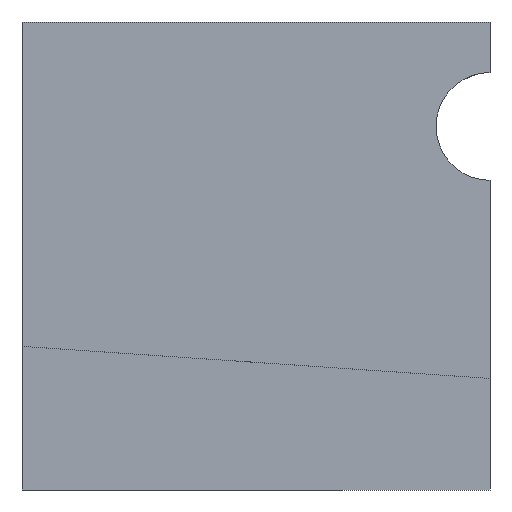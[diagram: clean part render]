
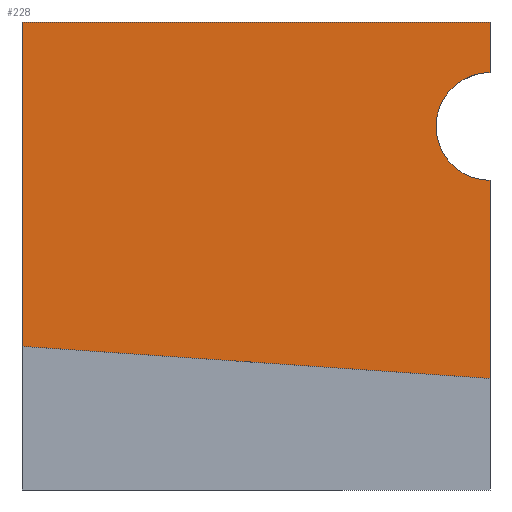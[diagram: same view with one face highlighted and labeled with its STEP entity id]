
A CAD part, left-side view. The second image highlights one B-rep face of the part: STEP entity #228.
In plain terms, the highlighted planar face has unit normal (-1, 0, 0).
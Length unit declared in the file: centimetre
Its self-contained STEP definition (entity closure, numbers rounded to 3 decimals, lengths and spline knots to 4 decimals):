
#7 = VERTEX_POINT ( 'NONE', #178 ) ;
#14 = DIRECTION ( 'NONE',  ( 0., -1., 0. ) ) ;
#31 = LINE ( 'NONE', #879, #623 ) ;
#44 = ORIENTED_EDGE ( 'NONE', *, *, #898, .F. ) ;
#53 = PLANE ( 'NONE',  #149 ) ;
#55 = EDGE_CURVE ( 'NONE', #841, #7, #422, .T. ) ;
#67 = CARTESIAN_POINT ( 'NONE',  ( 0., 0., 776.9443 ) ) ;
#80 = CARTESIAN_POINT ( 'NONE',  ( 0., 0., 238.3951 ) ) ;
#85 = CARTESIAN_POINT ( 'NONE',  ( 0., 1000., 306.9374 ) ) ;
#88 = DIRECTION ( 'NONE',  ( 0., 0., -1. ) ) ;
#94 = CARTESIAN_POINT ( 'NONE',  ( 0., 0., 1000. ) ) ;
#97 = EDGE_CURVE ( 'NONE', #272, #841, #31, .T. ) ;
#120 = ORIENTED_EDGE ( 'NONE', *, *, #293, .T. ) ;
#143 = DIRECTION ( 'NONE',  ( 0., 0., -1. ) ) ;
#149 = AXIS2_PLACEMENT_3D ( 'NONE', #288, #616, #143 ) ;
#178 = CARTESIAN_POINT ( 'NONE',  ( 0., 0., 892.1543 ) ) ;
#198 = VERTEX_POINT ( 'NONE', #443 ) ;
#226 = LINE ( 'NONE', #927, #739 ) ;
#228 = ADVANCED_FACE ( 'NONE', ( #525 ), #53, .F. ) ;
#262 = ORIENTED_EDGE ( 'NONE', *, *, #97, .F. ) ;
#272 = VERTEX_POINT ( 'NONE', #982 ) ;
#288 = CARTESIAN_POINT ( 'NONE',  ( 0., 1000., 1000. ) ) ;
#293 = EDGE_CURVE ( 'NONE', #272, #583, #988, .T. ) ;
#316 = CARTESIAN_POINT ( 'NONE',  ( 0., 1000., 1000. ) ) ;
#323 = AXIS2_PLACEMENT_3D ( 'NONE', #67, #601, #702 ) ;
#361 = VERTEX_POINT ( 'NONE', #80 ) ;
#377 = DIRECTION ( 'NONE',  ( 0., 0.998, 0.068 ) ) ;
#380 = ORIENTED_EDGE ( 'NONE', *, *, #55, .F. ) ;
#383 = EDGE_LOOP ( 'NONE', ( #120, #44, #957, #593, #380, #262 ) ) ;
#420 = VECTOR ( 'NONE', #88, 100. ) ;
#422 = LINE ( 'NONE', #94, #768 ) ;
#427 = EDGE_CURVE ( 'NONE', #7, #198, #942, .T. ) ;
#443 = CARTESIAN_POINT ( 'NONE',  ( 0., 0., 661.7342 ) ) ;
#462 = LINE ( 'NONE', #778, #576 ) ;
#525 = FACE_OUTER_BOUND ( 'NONE', #383, .T. ) ;
#576 = VECTOR ( 'NONE', #1008, 100. ) ;
#583 = VERTEX_POINT ( 'NONE', #85 ) ;
#593 = ORIENTED_EDGE ( 'NONE', *, *, #427, .F. ) ;
#601 = DIRECTION ( 'NONE',  ( -1., 0., 0. ) ) ;
#616 = DIRECTION ( 'NONE',  ( 1., 0., 0. ) ) ;
#623 = VECTOR ( 'NONE', #14, 100. ) ;
#702 = DIRECTION ( 'NONE',  ( 0., 0., 1. ) ) ;
#739 = VECTOR ( 'NONE', #377, 100. ) ;
#768 = VECTOR ( 'NONE', #818, 100. ) ;
#778 = CARTESIAN_POINT ( 'NONE',  ( 0., 0., 1000. ) ) ;
#818 = DIRECTION ( 'NONE',  ( 0., 0., -1. ) ) ;
#833 = CARTESIAN_POINT ( 'NONE',  ( 0., 0., 1000. ) ) ;
#841 = VERTEX_POINT ( 'NONE', #833 ) ;
#879 = CARTESIAN_POINT ( 'NONE',  ( 0., 1000., 1000. ) ) ;
#898 = EDGE_CURVE ( 'NONE', #361, #583, #226, .T. ) ;
#927 = CARTESIAN_POINT ( 'NONE',  ( 0., 1000., 306.9374 ) ) ;
#942 = CIRCLE ( 'NONE', #323, 115.2101 ) ;
#943 = EDGE_CURVE ( 'NONE', #198, #361, #462, .T. ) ;
#957 = ORIENTED_EDGE ( 'NONE', *, *, #943, .F. ) ;
#982 = CARTESIAN_POINT ( 'NONE',  ( 0., 1000., 1000. ) ) ;
#988 = LINE ( 'NONE', #316, #420 ) ;
#1008 = DIRECTION ( 'NONE',  ( 0., 0., -1. ) ) ;
